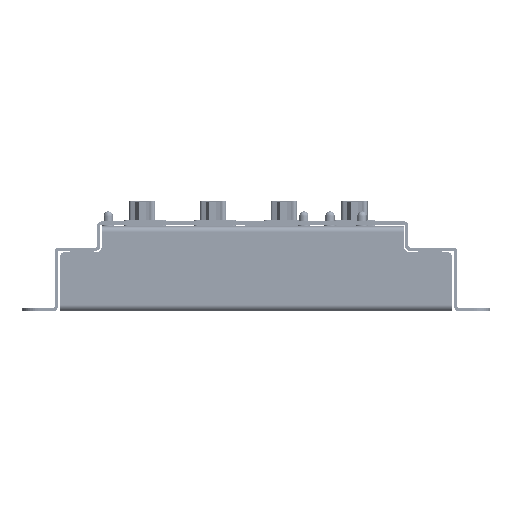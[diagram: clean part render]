
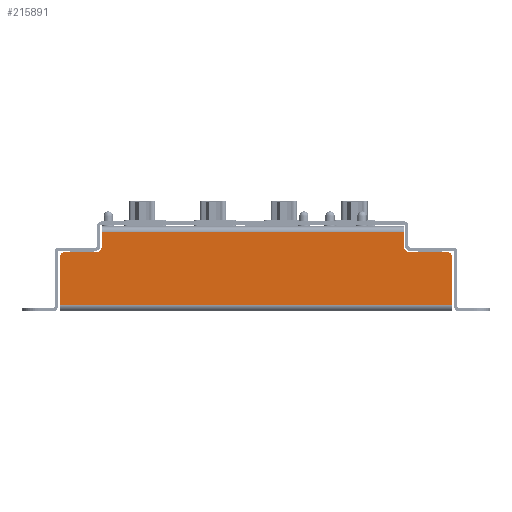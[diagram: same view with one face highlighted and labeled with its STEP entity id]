
A CAD part, front view. The second image highlights one B-rep face of the part: STEP entity #215891.
In plain terms, the highlighted planar face has unit normal (0, -1, 0) as drawn and (1, 0, 0) by its records, which use the part's own axes.
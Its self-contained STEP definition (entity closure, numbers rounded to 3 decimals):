
#12426 = DIRECTION ( 'NONE',  ( 0., 1., 0. ) ) ;
#13486 = EDGE_CURVE ( 'NONE', #205139, #108423, #65962, .T. ) ;
#16081 = ORIENTED_EDGE ( 'NONE', *, *, #151622, .T. ) ;
#20296 = CARTESIAN_POINT ( 'NONE',  ( 226., 0.737, 60. ) ) ;
#27147 = DIRECTION ( 'NONE',  ( 0., 0., 1. ) ) ;
#27787 = CARTESIAN_POINT ( 'NONE',  ( 226., 25., -45.25 ) ) ;
#29689 = DIRECTION ( 'NONE',  ( 0., 0., -1. ) ) ;
#30138 = LINE ( 'NONE', #27787, #308621 ) ;
#35140 = CIRCLE ( 'NONE', #460629, 1. ) ;
#36790 = ORIENTED_EDGE ( 'NONE', *, *, #276449, .T. ) ;
#38386 = CARTESIAN_POINT ( 'NONE',  ( 226., 0., -60. ) ) ;
#47561 = VECTOR ( 'NONE', #175438, 1000. ) ;
#61092 = DIRECTION ( 'NONE',  ( 0., 0., 1. ) ) ;
#61661 = EDGE_LOOP ( 'NONE', ( #129488, #463794, #318482, #392700, #375563, #16081, #133334, #232540, #151937, #36790, #461336, #260181 ) ) ;
#65962 = LINE ( 'NONE', #429842, #47561 ) ;
#69132 = CARTESIAN_POINT ( 'NONE',  ( 226., 25., 47.25 ) ) ;
#73952 = VECTOR ( 'NONE', #109784, 1000. ) ;
#83865 = CARTESIAN_POINT ( 'NONE',  ( 226., 17., -59. ) ) ;
#85028 = VERTEX_POINT ( 'NONE', #20296 ) ;
#85061 = VERTEX_POINT ( 'NONE', #426934 ) ;
#85134 = EDGE_CURVE ( 'NONE', #85028, #395207, #362598, .T. ) ;
#97576 = VERTEX_POINT ( 'NONE', #83865 ) ;
#106528 = CARTESIAN_POINT ( 'NONE',  ( 226., 17., -47.25 ) ) ;
#108114 = CARTESIAN_POINT ( 'NONE',  ( 226., 0.737, 60. ) ) ;
#108423 = VERTEX_POINT ( 'NONE', #301340 ) ;
#109784 = DIRECTION ( 'NONE',  ( 0., 1., 0. ) ) ;
#111259 = VERTEX_POINT ( 'NONE', #188900 ) ;
#111372 = EDGE_CURVE ( 'NONE', #97576, #277364, #345675, .T. ) ;
#119348 = DIRECTION ( 'NONE',  ( 0., 0., 1. ) ) ;
#119768 = AXIS2_PLACEMENT_3D ( 'NONE', #130325, #199341, #163685 ) ;
#129047 = CARTESIAN_POINT ( 'NONE',  ( 226., 16., 60. ) ) ;
#129488 = ORIENTED_EDGE ( 'NONE', *, *, #13486, .T. ) ;
#129861 = EDGE_CURVE ( 'NONE', #108423, #443054, #35140, .T. ) ;
#130325 = CARTESIAN_POINT ( 'NONE',  ( 226., 0., 60. ) ) ;
#132667 = FACE_OUTER_BOUND ( 'NONE', #61661, .T. ) ;
#133334 = ORIENTED_EDGE ( 'NONE', *, *, #111372, .T. ) ;
#136157 = CARTESIAN_POINT ( 'NONE',  ( 226., 23.263, 47.25 ) ) ;
#137250 = DIRECTION ( 'NONE',  ( 0., 1., 0. ) ) ;
#138932 = CARTESIAN_POINT ( 'NONE',  ( 226., 16., 59. ) ) ;
#139524 = CARTESIAN_POINT ( 'NONE',  ( 226., 19., 49.25 ) ) ;
#141716 = VECTOR ( 'NONE', #12426, 1000. ) ;
#145779 = AXIS2_PLACEMENT_3D ( 'NONE', #139524, #355972, #61092 ) ;
#151622 = EDGE_CURVE ( 'NONE', #250573, #97576, #351519, .T. ) ;
#151937 = ORIENTED_EDGE ( 'NONE', *, *, #309291, .T. ) ;
#154475 = AXIS2_PLACEMENT_3D ( 'NONE', #453463, #424838, #379779 ) ;
#155259 = VERTEX_POINT ( 'NONE', #365289 ) ;
#163102 = VECTOR ( 'NONE', #302941, 1000. ) ;
#163685 = DIRECTION ( 'NONE',  ( 0., 0., 1. ) ) ;
#166458 = CARTESIAN_POINT ( 'NONE',  ( 226., 16., -59. ) ) ;
#175438 = DIRECTION ( 'NONE',  ( 0., 0., 1. ) ) ;
#176725 = EDGE_CURVE ( 'NONE', #111259, #205139, #191548, .T. ) ;
#181426 = VECTOR ( 'NONE', #29689, 1000. ) ;
#188581 = LINE ( 'NONE', #221924, #141716 ) ;
#188900 = CARTESIAN_POINT ( 'NONE',  ( 226., 19., 47.25 ) ) ;
#191548 = CIRCLE ( 'NONE', #145779, 2. ) ;
#199341 = DIRECTION ( 'NONE',  ( -1., 0., 0. ) ) ;
#205139 = VERTEX_POINT ( 'NONE', #431033 ) ;
#209517 = DIRECTION ( 'NONE',  ( 0., -1., 0. ) ) ;
#210261 = DIRECTION ( 'NONE',  ( 1., 0., 0. ) ) ;
#211909 = EDGE_CURVE ( 'NONE', #395207, #250573, #364270, .T. ) ;
#215891 = ADVANCED_FACE ( 'NONE', ( #132667 ), #308733, .F. ) ;
#221924 = CARTESIAN_POINT ( 'NONE',  ( 226., 0., 60. ) ) ;
#231073 = CARTESIAN_POINT ( 'NONE',  ( 226., 23.263, -45.25 ) ) ;
#232540 = ORIENTED_EDGE ( 'NONE', *, *, #446890, .T. ) ;
#247541 = LINE ( 'NONE', #69132, #369204 ) ;
#250573 = VERTEX_POINT ( 'NONE', #398404 ) ;
#260114 = VECTOR ( 'NONE', #119348, 1000. ) ;
#260181 = ORIENTED_EDGE ( 'NONE', *, *, #176725, .T. ) ;
#276449 = EDGE_CURVE ( 'NONE', #85061, #339325, #411882, .T. ) ;
#277364 = VERTEX_POINT ( 'NONE', #106528 ) ;
#301340 = CARTESIAN_POINT ( 'NONE',  ( 226., 17., 59. ) ) ;
#302941 = DIRECTION ( 'NONE',  ( 0., 0., 1. ) ) ;
#305297 = CARTESIAN_POINT ( 'NONE',  ( 226., 17., -60. ) ) ;
#308621 = VECTOR ( 'NONE', #137250, 1000. ) ;
#308733 = PLANE ( 'NONE',  #119768 ) ;
#309291 = EDGE_CURVE ( 'NONE', #155259, #85061, #30138, .T. ) ;
#317161 = EDGE_CURVE ( 'NONE', #85028, #443054, #188581, .T. ) ;
#318482 = ORIENTED_EDGE ( 'NONE', *, *, #317161, .F. ) ;
#339325 = VERTEX_POINT ( 'NONE', #136157 ) ;
#345675 = LINE ( 'NONE', #305297, #163102 ) ;
#351519 = CIRCLE ( 'NONE', #458123, 1. ) ;
#355972 = DIRECTION ( 'NONE',  ( -1., 0., 0. ) ) ;
#362598 = LINE ( 'NONE', #108114, #181426 ) ;
#364270 = LINE ( 'NONE', #38386, #73952 ) ;
#365289 = CARTESIAN_POINT ( 'NONE',  ( 226., 19., -45.25 ) ) ;
#369204 = VECTOR ( 'NONE', #209517, 1000. ) ;
#375563 = ORIENTED_EDGE ( 'NONE', *, *, #211909, .T. ) ;
#379779 = DIRECTION ( 'NONE',  ( 0., 0., 1. ) ) ;
#387578 = DIRECTION ( 'NONE',  ( 0., 0., 1. ) ) ;
#392700 = ORIENTED_EDGE ( 'NONE', *, *, #85134, .T. ) ;
#394785 = CARTESIAN_POINT ( 'NONE',  ( 226., 0.737, -60. ) ) ;
#395207 = VERTEX_POINT ( 'NONE', #394785 ) ;
#398404 = CARTESIAN_POINT ( 'NONE',  ( 226., 16., -60. ) ) ;
#411882 = LINE ( 'NONE', #231073, #260114 ) ;
#423662 = EDGE_CURVE ( 'NONE', #339325, #111259, #247541, .T. ) ;
#424838 = DIRECTION ( 'NONE',  ( -1., 0., 0. ) ) ;
#426934 = CARTESIAN_POINT ( 'NONE',  ( 226., 23.263, -45.25 ) ) ;
#429842 = CARTESIAN_POINT ( 'NONE',  ( 226., 17., 60. ) ) ;
#431033 = CARTESIAN_POINT ( 'NONE',  ( 226., 17., 49.25 ) ) ;
#443054 = VERTEX_POINT ( 'NONE', #129047 ) ;
#446890 = EDGE_CURVE ( 'NONE', #277364, #155259, #465807, .T. ) ;
#453463 = CARTESIAN_POINT ( 'NONE',  ( 226., 19., -47.25 ) ) ;
#456616 = DIRECTION ( 'NONE',  ( 1., 0., 0. ) ) ;
#458123 = AXIS2_PLACEMENT_3D ( 'NONE', #166458, #456616, #387578 ) ;
#460629 = AXIS2_PLACEMENT_3D ( 'NONE', #138932, #210261, #27147 ) ;
#461336 = ORIENTED_EDGE ( 'NONE', *, *, #423662, .T. ) ;
#463794 = ORIENTED_EDGE ( 'NONE', *, *, #129861, .T. ) ;
#465807 = CIRCLE ( 'NONE', #154475, 2. ) ;
